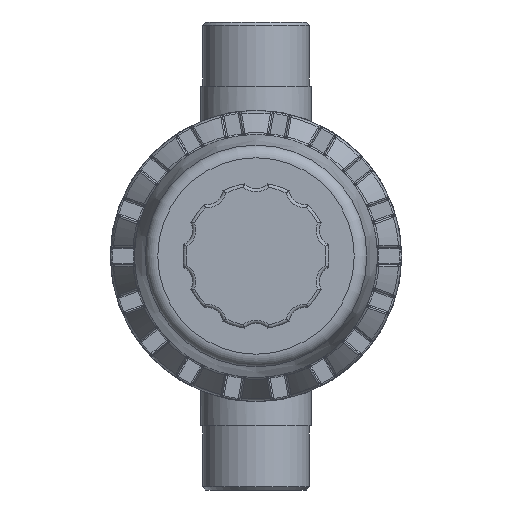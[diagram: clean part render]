
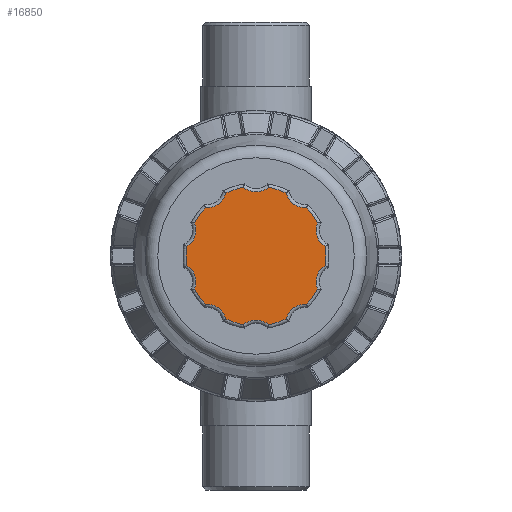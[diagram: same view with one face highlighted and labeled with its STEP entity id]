
A CAD part, front view. The second image highlights one B-rep face of the part: STEP entity #16850.
In plain terms, the highlighted planar face has unit normal (0, -1, 0).
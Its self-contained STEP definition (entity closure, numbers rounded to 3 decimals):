
#64=PLANE('',#18159);
#3097=FACE_OUTER_BOUND('',#4305,.T.);
#4305=EDGE_LOOP('',(#11333,#11334,#11335,#11336,#11337,#11338,#11339,#11340,
#11341,#11342,#11343,#11344,#11345,#11346,#11347,#11348,#11349,#11350,#11351,
#11352));
#5504=CIRCLE('',#18080,6.);
#5506=CIRCLE('',#18083,21.8);
#5508=CIRCLE('',#18086,6.);
#5510=CIRCLE('',#18089,21.8);
#5512=CIRCLE('',#18092,6.);
#5514=CIRCLE('',#18095,21.8);
#5516=CIRCLE('',#18098,6.);
#5518=CIRCLE('',#18101,21.8);
#5520=CIRCLE('',#18104,6.);
#5522=CIRCLE('',#18107,21.8);
#5524=CIRCLE('',#18110,6.);
#5527=CIRCLE('',#18114,21.8);
#5529=CIRCLE('',#18117,6.);
#5531=CIRCLE('',#18120,21.8);
#5533=CIRCLE('',#18123,6.);
#5535=CIRCLE('',#18126,21.8);
#5537=CIRCLE('',#18129,6.);
#5539=CIRCLE('',#18132,21.8);
#5541=CIRCLE('',#18135,6.);
#5543=CIRCLE('',#18138,21.8);
#6767=VERTEX_POINT('',#24881);
#6768=VERTEX_POINT('',#24882);
#6771=VERTEX_POINT('',#24916);
#6773=VERTEX_POINT('',#24935);
#6775=VERTEX_POINT('',#24954);
#6777=VERTEX_POINT('',#24973);
#6779=VERTEX_POINT('',#24992);
#6781=VERTEX_POINT('',#25011);
#6783=VERTEX_POINT('',#25030);
#6785=VERTEX_POINT('',#25049);
#6787=VERTEX_POINT('',#25068);
#6789=VERTEX_POINT('',#25087);
#6792=VERTEX_POINT('',#25108);
#6794=VERTEX_POINT('',#25127);
#6796=VERTEX_POINT('',#25146);
#6798=VERTEX_POINT('',#25165);
#6800=VERTEX_POINT('',#25184);
#6802=VERTEX_POINT('',#25203);
#6804=VERTEX_POINT('',#25222);
#6806=VERTEX_POINT('',#25241);
#8377=EDGE_CURVE('',#6767,#6768,#5504,.T.);
#8381=EDGE_CURVE('',#6768,#6771,#5506,.T.);
#8384=EDGE_CURVE('',#6771,#6773,#5508,.T.);
#8387=EDGE_CURVE('',#6773,#6775,#5510,.T.);
#8390=EDGE_CURVE('',#6775,#6777,#5512,.T.);
#8393=EDGE_CURVE('',#6777,#6779,#5514,.T.);
#8396=EDGE_CURVE('',#6779,#6781,#5516,.T.);
#8399=EDGE_CURVE('',#6781,#6783,#5518,.T.);
#8402=EDGE_CURVE('',#6783,#6785,#5520,.T.);
#8405=EDGE_CURVE('',#6785,#6787,#5522,.T.);
#8408=EDGE_CURVE('',#6787,#6789,#5524,.T.);
#8412=EDGE_CURVE('',#6789,#6792,#5527,.T.);
#8415=EDGE_CURVE('',#6792,#6794,#5529,.T.);
#8418=EDGE_CURVE('',#6794,#6796,#5531,.T.);
#8421=EDGE_CURVE('',#6796,#6798,#5533,.T.);
#8424=EDGE_CURVE('',#6798,#6800,#5535,.T.);
#8427=EDGE_CURVE('',#6800,#6802,#5537,.T.);
#8430=EDGE_CURVE('',#6802,#6804,#5539,.T.);
#8433=EDGE_CURVE('',#6804,#6806,#5541,.T.);
#8436=EDGE_CURVE('',#6806,#6767,#5543,.T.);
#11333=ORIENTED_EDGE('',*,*,#8377,.F.);
#11334=ORIENTED_EDGE('',*,*,#8436,.F.);
#11335=ORIENTED_EDGE('',*,*,#8433,.F.);
#11336=ORIENTED_EDGE('',*,*,#8430,.F.);
#11337=ORIENTED_EDGE('',*,*,#8427,.F.);
#11338=ORIENTED_EDGE('',*,*,#8424,.F.);
#11339=ORIENTED_EDGE('',*,*,#8421,.F.);
#11340=ORIENTED_EDGE('',*,*,#8418,.F.);
#11341=ORIENTED_EDGE('',*,*,#8415,.F.);
#11342=ORIENTED_EDGE('',*,*,#8412,.F.);
#11343=ORIENTED_EDGE('',*,*,#8408,.F.);
#11344=ORIENTED_EDGE('',*,*,#8405,.F.);
#11345=ORIENTED_EDGE('',*,*,#8402,.F.);
#11346=ORIENTED_EDGE('',*,*,#8399,.F.);
#11347=ORIENTED_EDGE('',*,*,#8396,.F.);
#11348=ORIENTED_EDGE('',*,*,#8393,.F.);
#11349=ORIENTED_EDGE('',*,*,#8390,.F.);
#11350=ORIENTED_EDGE('',*,*,#8387,.F.);
#11351=ORIENTED_EDGE('',*,*,#8384,.F.);
#11352=ORIENTED_EDGE('',*,*,#8381,.F.);
#16850=ADVANCED_FACE('',(#3097),#64,.T.);
#18080=AXIS2_PLACEMENT_3D('',#24883,#20037,#20038);
#18083=AXIS2_PLACEMENT_3D('',#24917,#20043,#20044);
#18086=AXIS2_PLACEMENT_3D('',#24936,#20049,#20050);
#18089=AXIS2_PLACEMENT_3D('',#24955,#20055,#20056);
#18092=AXIS2_PLACEMENT_3D('',#24974,#20061,#20062);
#18095=AXIS2_PLACEMENT_3D('',#24993,#20067,#20068);
#18098=AXIS2_PLACEMENT_3D('',#25012,#20073,#20074);
#18101=AXIS2_PLACEMENT_3D('',#25031,#20079,#20080);
#18104=AXIS2_PLACEMENT_3D('',#25050,#20085,#20086);
#18107=AXIS2_PLACEMENT_3D('',#25069,#20091,#20092);
#18110=AXIS2_PLACEMENT_3D('',#25088,#20097,#20098);
#18114=AXIS2_PLACEMENT_3D('',#25109,#20105,#20106);
#18117=AXIS2_PLACEMENT_3D('',#25128,#20111,#20112);
#18120=AXIS2_PLACEMENT_3D('',#25147,#20117,#20118);
#18123=AXIS2_PLACEMENT_3D('',#25166,#20123,#20124);
#18126=AXIS2_PLACEMENT_3D('',#25185,#20129,#20130);
#18129=AXIS2_PLACEMENT_3D('',#25204,#20135,#20136);
#18132=AXIS2_PLACEMENT_3D('',#25223,#20141,#20142);
#18135=AXIS2_PLACEMENT_3D('',#25242,#20147,#20148);
#18138=AXIS2_PLACEMENT_3D('',#25259,#20153,#20154);
#18159=AXIS2_PLACEMENT_3D('',#25302,#20206,#20207);
#20037=DIRECTION('center_axis',(0.,-1.,0.));
#20038=DIRECTION('ref_axis',(0.951,0.,-0.309));
#20043=DIRECTION('center_axis',(0.,1.,0.));
#20044=DIRECTION('ref_axis',(-0.809,0.,0.588));
#20049=DIRECTION('center_axis',(0.,-1.,0.));
#20050=DIRECTION('ref_axis',(0.588,0.,-0.809));
#20055=DIRECTION('center_axis',(0.,1.,0.));
#20056=DIRECTION('ref_axis',(-0.309,0.,0.951));
#20061=DIRECTION('center_axis',(0.,-1.,0.));
#20062=DIRECTION('ref_axis',(0.,0.,-1.));
#20067=DIRECTION('center_axis',(0.,1.,0.));
#20068=DIRECTION('ref_axis',(0.309,0.,0.951));
#20073=DIRECTION('center_axis',(0.,-1.,0.));
#20074=DIRECTION('ref_axis',(-0.588,0.,-0.809));
#20079=DIRECTION('center_axis',(0.,1.,0.));
#20080=DIRECTION('ref_axis',(0.809,0.,0.588));
#20085=DIRECTION('center_axis',(0.,-1.,0.));
#20086=DIRECTION('ref_axis',(-0.951,0.,-0.309));
#20091=DIRECTION('center_axis',(0.,1.,0.));
#20092=DIRECTION('ref_axis',(1.,0.,0.));
#20097=DIRECTION('center_axis',(0.,-1.,0.));
#20098=DIRECTION('ref_axis',(-0.951,0.,0.309));
#20105=DIRECTION('center_axis',(0.,1.,0.));
#20106=DIRECTION('ref_axis',(0.809,0.,-0.588));
#20111=DIRECTION('center_axis',(0.,-1.,0.));
#20112=DIRECTION('ref_axis',(-0.588,0.,0.809));
#20117=DIRECTION('center_axis',(0.,1.,0.));
#20118=DIRECTION('ref_axis',(0.309,0.,-0.951));
#20123=DIRECTION('center_axis',(0.,-1.,0.));
#20124=DIRECTION('ref_axis',(0.,0.,1.));
#20129=DIRECTION('center_axis',(0.,1.,0.));
#20130=DIRECTION('ref_axis',(-0.309,0.,-0.951));
#20135=DIRECTION('center_axis',(0.,-1.,0.));
#20136=DIRECTION('ref_axis',(0.588,0.,0.809));
#20141=DIRECTION('center_axis',(0.,1.,0.));
#20142=DIRECTION('ref_axis',(-0.809,0.,-0.588));
#20147=DIRECTION('center_axis',(0.,-1.,0.));
#20148=DIRECTION('ref_axis',(0.951,0.,0.309));
#20153=DIRECTION('center_axis',(0.,1.,0.));
#20154=DIRECTION('ref_axis',(-1.,0.,0.));
#20206=DIRECTION('center_axis',(0.,-1.,0.));
#20207=DIRECTION('ref_axis',(0.,0.,-1.));
#24881=CARTESIAN_POINT('',(-21.605,0.,2.911));
#24882=CARTESIAN_POINT('',(-19.19,0.,10.344));
#24883=CARTESIAN_POINT('Origin',(-24.727,0.,8.034));
#24916=CARTESIAN_POINT('',(-15.768,0.,15.054));
#24917=CARTESIAN_POINT('Origin',(0.,0.,0.));
#24935=CARTESIAN_POINT('',(-9.445,0.,19.648));
#24936=CARTESIAN_POINT('Origin',(-15.282,0.,21.034));
#24954=CARTESIAN_POINT('',(-3.908,0.,21.447));
#24955=CARTESIAN_POINT('Origin',(0.,0.,0.));
#24973=CARTESIAN_POINT('',(3.908,0.,21.447));
#24974=CARTESIAN_POINT('Origin',(0.,0.,26.));
#24992=CARTESIAN_POINT('',(9.445,0.,19.648));
#24993=CARTESIAN_POINT('Origin',(0.,0.,0.));
#25011=CARTESIAN_POINT('',(15.768,0.,15.054));
#25012=CARTESIAN_POINT('Origin',(15.282,0.,21.034));
#25030=CARTESIAN_POINT('',(19.19,0.,10.344));
#25031=CARTESIAN_POINT('Origin',(0.,0.,0.));
#25049=CARTESIAN_POINT('',(21.605,0.,2.911));
#25050=CARTESIAN_POINT('Origin',(24.727,0.,8.034));
#25068=CARTESIAN_POINT('',(21.605,0.,-2.911));
#25069=CARTESIAN_POINT('Origin',(0.,0.,0.));
#25087=CARTESIAN_POINT('',(19.19,0.,-10.344));
#25088=CARTESIAN_POINT('Origin',(24.727,0.,-8.034));
#25108=CARTESIAN_POINT('',(15.768,0.,-15.054));
#25109=CARTESIAN_POINT('Origin',(0.,0.,0.));
#25127=CARTESIAN_POINT('',(9.445,0.,-19.648));
#25128=CARTESIAN_POINT('Origin',(15.282,0.,-21.034));
#25146=CARTESIAN_POINT('',(3.908,0.,-21.447));
#25147=CARTESIAN_POINT('Origin',(0.,0.,0.));
#25165=CARTESIAN_POINT('',(-3.908,0.,-21.447));
#25166=CARTESIAN_POINT('Origin',(0.,0.,-26.));
#25184=CARTESIAN_POINT('',(-9.445,0.,-19.648));
#25185=CARTESIAN_POINT('Origin',(0.,0.,0.));
#25203=CARTESIAN_POINT('',(-15.768,0.,-15.054));
#25204=CARTESIAN_POINT('Origin',(-15.282,0.,-21.034));
#25222=CARTESIAN_POINT('',(-19.19,0.,-10.344));
#25223=CARTESIAN_POINT('Origin',(0.,0.,0.));
#25241=CARTESIAN_POINT('',(-21.605,0.,-2.911));
#25242=CARTESIAN_POINT('Origin',(-24.727,0.,-8.034));
#25259=CARTESIAN_POINT('Origin',(0.,0.,0.));
#25302=CARTESIAN_POINT('Origin',(0.,0.,0.));
